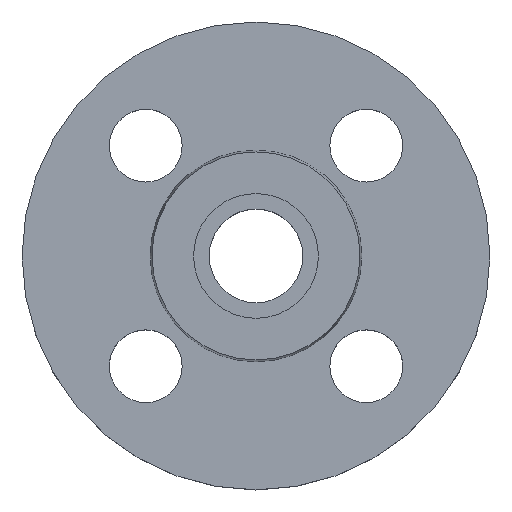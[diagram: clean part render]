
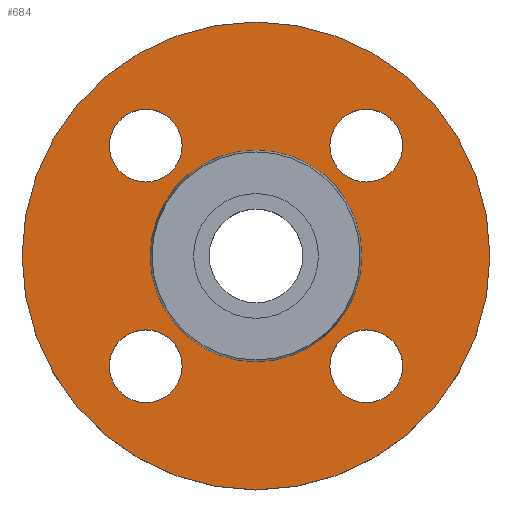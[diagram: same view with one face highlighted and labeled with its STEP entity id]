
A CAD part, top view. The second image highlights one B-rep face of the part: STEP entity #684.
In plain terms, the highlighted planar face has unit normal (0, 0, 1).
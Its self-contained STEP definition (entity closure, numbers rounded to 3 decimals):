
#1 = DIRECTION ( 'NONE',  ( -1., 0., 0. ) ) ;
#12 = EDGE_CURVE ( 'NONE', #471, #597, #26, .T. ) ;
#26 = CIRCLE ( 'NONE', #189, 20.353 ) ;
#44 = CIRCLE ( 'NONE', #326, 7. ) ;
#50 = DIRECTION ( 'NONE',  ( 0., 0., -1. ) ) ;
#67 = DIRECTION ( 'NONE',  ( 1., 0., 0. ) ) ;
#68 = DIRECTION ( 'NONE',  ( 0., 0., 1. ) ) ;
#69 = CARTESIAN_POINT ( 'NONE',  ( 20.353, 0., -2. ) ) ;
#71 = PLANE ( 'NONE',  #319 ) ;
#72 = FACE_OUTER_BOUND ( 'NONE', #655, .T. ) ;
#73 = FACE_BOUND ( 'NONE', #527, .T. ) ;
#74 = FACE_BOUND ( 'NONE', #609, .T. ) ;
#75 = FACE_BOUND ( 'NONE', #613, .T. ) ;
#78 = FACE_BOUND ( 'NONE', #590, .T. ) ;
#80 = FACE_BOUND ( 'NONE', #509, .T. ) ;
#84 = CARTESIAN_POINT ( 'NONE',  ( 14.213, 21.213, -2. ) ) ;
#86 = EDGE_CURVE ( 'NONE', #467, #618, #291, .T. ) ;
#95 = CARTESIAN_POINT ( 'NONE',  ( -14.213, -21.213, -2. ) ) ;
#99 = CARTESIAN_POINT ( 'NONE',  ( -28.213, 21.213, -2. ) ) ;
#109 = CIRCLE ( 'NONE', #522, 7. ) ;
#113 = DIRECTION ( 'NONE',  ( 1., 0., 0. ) ) ;
#114 = DIRECTION ( 'NONE',  ( 0., 0., -1. ) ) ;
#115 = CARTESIAN_POINT ( 'NONE',  ( 21.213, 21.213, -2. ) ) ;
#117 = CARTESIAN_POINT ( 'NONE',  ( 28.213, -21.213, -2. ) ) ;
#126 = DIRECTION ( 'NONE',  ( -1., 0., 0. ) ) ;
#128 = DIRECTION ( 'NONE',  ( 0., 0., -1. ) ) ;
#130 = CARTESIAN_POINT ( 'NONE',  ( 0., 0., -2. ) ) ;
#134 = CARTESIAN_POINT ( 'NONE',  ( 20.353, 0., -2. ) ) ;
#145 = CARTESIAN_POINT ( 'NONE',  ( -28.213, -21.213, -2. ) ) ;
#146 = DIRECTION ( 'NONE',  ( 1., 0., 0. ) ) ;
#148 = DIRECTION ( 'NONE',  ( 0., 0., -1. ) ) ;
#150 = CARTESIAN_POINT ( 'NONE',  ( -21.213, 21.213, -2. ) ) ;
#177 = CARTESIAN_POINT ( 'NONE',  ( -20.353, 0., -2. ) ) ;
#182 = CARTESIAN_POINT ( 'NONE',  ( -14.213, 21.213, -2. ) ) ;
#188 = EDGE_CURVE ( 'NONE', #597, #471, #272, .T. ) ;
#189 = AXIS2_PLACEMENT_3D ( 'NONE', #692, #693, #694 ) ;
#190 = CARTESIAN_POINT ( 'NONE',  ( -45., 0., -2. ) ) ;
#191 = CARTESIAN_POINT ( 'NONE',  ( 28.213, 21.213, -2. ) ) ;
#199 = AXIS2_PLACEMENT_3D ( 'NONE', #130, #128, #126 ) ;
#203 = AXIS2_PLACEMENT_3D ( 'NONE', #115, #114, #113 ) ;
#206 = CARTESIAN_POINT ( 'NONE',  ( 45., 0., -2. ) ) ;
#216 = EDGE_CURVE ( 'NONE', #566, #662, #425, .T. ) ;
#231 = EDGE_CURVE ( 'NONE', #618, #467, #109, .T. ) ;
#234 = CARTESIAN_POINT ( 'NONE',  ( 14.213, -21.213, -2. ) ) ;
#235 = AXIS2_PLACEMENT_3D ( 'NONE', #736, #50, #288 ) ;
#241 = EDGE_CURVE ( 'NONE', #470, #488, #261, .T. ) ;
#251 = EDGE_CURVE ( 'NONE', #676, #472, #269, .T. ) ;
#252 = EDGE_CURVE ( 'NONE', #469, #657, #339, .T. ) ;
#261 = CIRCLE ( 'NONE', #457, 45. ) ;
#269 = CIRCLE ( 'NONE', #235, 7. ) ;
#272 = CIRCLE ( 'NONE', #273, 20.353 ) ;
#273 = AXIS2_PLACEMENT_3D ( 'NONE', #762, #763, #764 ) ;
#278 = CIRCLE ( 'NONE', #199, 45. ) ;
#281 = AXIS2_PLACEMENT_3D ( 'NONE', #801, #297, #298 ) ;
#283 = AXIS2_PLACEMENT_3D ( 'NONE', #443, #452, #455 ) ;
#286 = AXIS2_PLACEMENT_3D ( 'NONE', #728, #730, #731 ) ;
#288 = DIRECTION ( 'NONE',  ( 1., 0., 0. ) ) ;
#291 = CIRCLE ( 'NONE', #286, 7. ) ;
#296 = DIRECTION ( 'NONE',  ( 0., 0., -1. ) ) ;
#297 = DIRECTION ( 'NONE',  ( 0., 0., -1. ) ) ;
#298 = DIRECTION ( 'NONE',  ( 1., 0., 0. ) ) ;
#311 = CIRCLE ( 'NONE', #283, 7. ) ;
#319 = AXIS2_PLACEMENT_3D ( 'NONE', #69, #68, #67 ) ;
#326 = AXIS2_PLACEMENT_3D ( 'NONE', #150, #148, #146 ) ;
#339 = CIRCLE ( 'NONE', #281, 7. ) ;
#368 = AXIS2_PLACEMENT_3D ( 'NONE', #777, #779, #780 ) ;
#375 = CIRCLE ( 'NONE', #203, 7. ) ;
#425 = CIRCLE ( 'NONE', #368, 7. ) ;
#443 = CARTESIAN_POINT ( 'NONE',  ( -21.213, -21.213, -2. ) ) ;
#452 = DIRECTION ( 'NONE',  ( 0., 0., -1. ) ) ;
#455 = DIRECTION ( 'NONE',  ( 1., 0., 0. ) ) ;
#457 = AXIS2_PLACEMENT_3D ( 'NONE', #800, #296, #1 ) ;
#467 = VERTEX_POINT ( 'NONE', #234 ) ;
#469 = VERTEX_POINT ( 'NONE', #182 ) ;
#470 = VERTEX_POINT ( 'NONE', #190 ) ;
#471 = VERTEX_POINT ( 'NONE', #177 ) ;
#472 = VERTEX_POINT ( 'NONE', #191 ) ;
#488 = VERTEX_POINT ( 'NONE', #206 ) ;
#506 = EDGE_CURVE ( 'NONE', #662, #566, #311, .T. ) ;
#509 = EDGE_LOOP ( 'NONE', ( #556, #560 ) ) ;
#522 = AXIS2_PLACEMENT_3D ( 'NONE', #794, #795, #796 ) ;
#527 = EDGE_LOOP ( 'NONE', ( #570, #571 ) ) ;
#556 = ORIENTED_EDGE ( 'NONE', *, *, #231, .T. ) ;
#559 = EDGE_CURVE ( 'NONE', #657, #469, #44, .T. ) ;
#560 = ORIENTED_EDGE ( 'NONE', *, *, #86, .T. ) ;
#561 = ORIENTED_EDGE ( 'NONE', *, *, #506, .T. ) ;
#562 = ORIENTED_EDGE ( 'NONE', *, *, #216, .T. ) ;
#563 = ORIENTED_EDGE ( 'NONE', *, *, #252, .T. ) ;
#564 = ORIENTED_EDGE ( 'NONE', *, *, #559, .T. ) ;
#566 = VERTEX_POINT ( 'NONE', #145 ) ;
#567 = ORIENTED_EDGE ( 'NONE', *, *, #630, .T. ) ;
#569 = ORIENTED_EDGE ( 'NONE', *, *, #251, .T. ) ;
#570 = ORIENTED_EDGE ( 'NONE', *, *, #12, .T. ) ;
#571 = ORIENTED_EDGE ( 'NONE', *, *, #188, .T. ) ;
#572 = ORIENTED_EDGE ( 'NONE', *, *, #604, .F. ) ;
#573 = ORIENTED_EDGE ( 'NONE', *, *, #241, .F. ) ;
#590 = EDGE_LOOP ( 'NONE', ( #561, #562 ) ) ;
#597 = VERTEX_POINT ( 'NONE', #134 ) ;
#604 = EDGE_CURVE ( 'NONE', #488, #470, #278, .T. ) ;
#609 = EDGE_LOOP ( 'NONE', ( #567, #569 ) ) ;
#613 = EDGE_LOOP ( 'NONE', ( #563, #564 ) ) ;
#618 = VERTEX_POINT ( 'NONE', #117 ) ;
#630 = EDGE_CURVE ( 'NONE', #472, #676, #375, .T. ) ;
#655 = EDGE_LOOP ( 'NONE', ( #572, #573 ) ) ;
#657 = VERTEX_POINT ( 'NONE', #99 ) ;
#662 = VERTEX_POINT ( 'NONE', #95 ) ;
#676 = VERTEX_POINT ( 'NONE', #84 ) ;
#684 = ADVANCED_FACE ( 'NONE', ( #80, #78, #75, #74, #73, #72 ), #71, .T. ) ;
#692 = CARTESIAN_POINT ( 'NONE',  ( 0., 0., -2. ) ) ;
#693 = DIRECTION ( 'NONE',  ( 0., 0., -1. ) ) ;
#694 = DIRECTION ( 'NONE',  ( -1., 0., 0. ) ) ;
#728 = CARTESIAN_POINT ( 'NONE',  ( 21.213, -21.213, -2. ) ) ;
#730 = DIRECTION ( 'NONE',  ( 0., 0., -1. ) ) ;
#731 = DIRECTION ( 'NONE',  ( 1., 0., 0. ) ) ;
#736 = CARTESIAN_POINT ( 'NONE',  ( 21.213, 21.213, -2. ) ) ;
#762 = CARTESIAN_POINT ( 'NONE',  ( 0., 0., -2. ) ) ;
#763 = DIRECTION ( 'NONE',  ( 0., 0., -1. ) ) ;
#764 = DIRECTION ( 'NONE',  ( -1., 0., 0. ) ) ;
#777 = CARTESIAN_POINT ( 'NONE',  ( -21.213, -21.213, -2. ) ) ;
#779 = DIRECTION ( 'NONE',  ( 0., 0., -1. ) ) ;
#780 = DIRECTION ( 'NONE',  ( 1., 0., 0. ) ) ;
#794 = CARTESIAN_POINT ( 'NONE',  ( 21.213, -21.213, -2. ) ) ;
#795 = DIRECTION ( 'NONE',  ( 0., 0., -1. ) ) ;
#796 = DIRECTION ( 'NONE',  ( 1., 0., 0. ) ) ;
#800 = CARTESIAN_POINT ( 'NONE',  ( 0., 0., -2. ) ) ;
#801 = CARTESIAN_POINT ( 'NONE',  ( -21.213, 21.213, -2. ) ) ;
